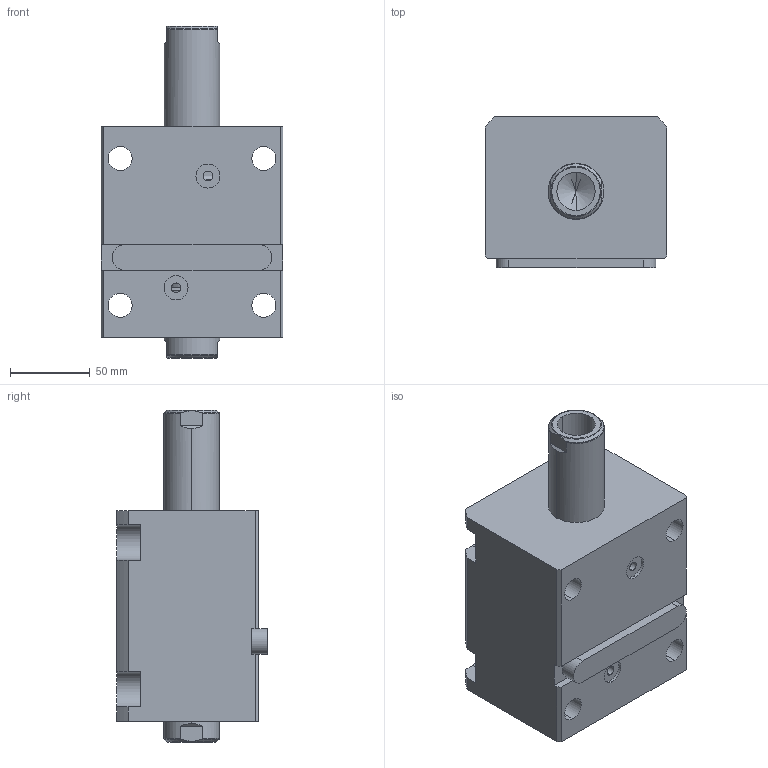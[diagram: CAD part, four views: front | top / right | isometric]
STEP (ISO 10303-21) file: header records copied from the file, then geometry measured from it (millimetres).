
FILE_DESCRIPTION (( 'STEP AP214' ), '1' );
FILE_NAME ('chtb-lwm63x50n_asm.STEP', '2018-05-22T02:18:21', ( 'Windows' ), ( 'Microsoft' ), 'SwSTEP 2.0', 'SolidWorks 2015', '' );
FILE_SCHEMA (( 'AUTOMOTIVE_DESIGN' ));
Length unit declared in the file: millimetre
Products named in the file (5): CHTB-SW63X50NHSG; CHTB-LWM63X50NBT; CHTB-LA63PJ; CHTB-63QG; chtb-lwm63x50n_asm
Assembly tree (4 placements, depth 2):
  chtb-lwm63x50n_asm
    CHTB-63QG
    CHTB-LA63PJ
    CHTB-LWM63X50NBT
    CHTB-SW63X50NHSG
Bounding box: 114 x 94.5 x 208 mm (x, y, z)
Volume: 1207298.3 mm3; surface area: 170633.3 mm2
Topology: 4 solids, 4 shells, 186 faces, 543 edges, 367 vertices
Faces by surface type: cylinder 103, plane 47, bspline 12, cone 12, torus 12
Entity records: 18665 total; most frequent: CARTESIAN_POINT 13839, ORIENTED_EDGE 1070, DIRECTION 834, EDGE_CURVE 535, VERTEX_POINT 367, AXIS2_PLACEMENT_3D 318, EDGE_LOOP 212, LINE 198
